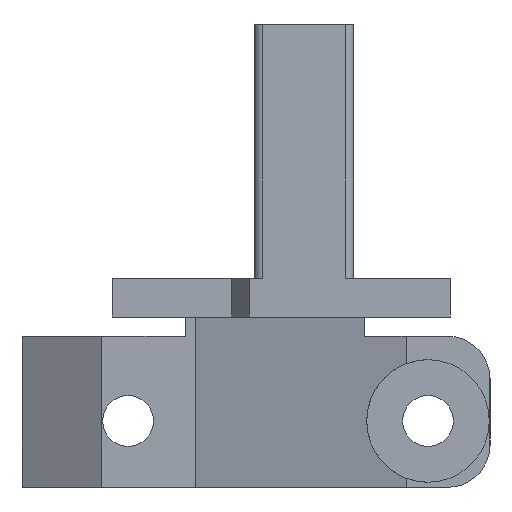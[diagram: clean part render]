
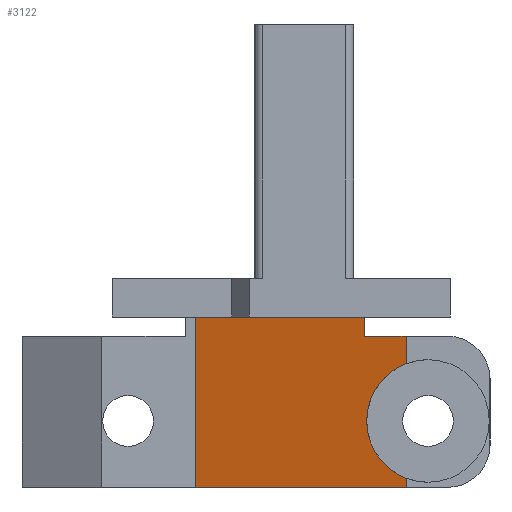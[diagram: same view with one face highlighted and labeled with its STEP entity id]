
A CAD part, left-side view. The second image highlights one B-rep face of the part: STEP entity #3122.
In plain terms, the highlighted planar face has unit normal (-0.962, 0.274, 0).
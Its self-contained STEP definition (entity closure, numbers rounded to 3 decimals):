
#49 = CARTESIAN_POINT ( 'NONE',  ( 174.242, 86.83, 22.6 ) ) ;
#113 = EDGE_CURVE ( 'NONE', #3457, #1231, #2367, .T. ) ;
#122 = CARTESIAN_POINT ( 'NONE',  ( 172.85, 81.938, 17.069 ) ) ;
#288 = CARTESIAN_POINT ( 'NONE',  ( 172.85, 81.938, 20.315 ) ) ;
#291 = PLANE ( 'NONE',  #713 ) ;
#397 = VERTEX_POINT ( 'NONE', #3598 ) ;
#502 = DIRECTION ( 'NONE',  ( -0.274, -0.962, 0. ) ) ;
#568 = LINE ( 'NONE', #288, #993 ) ;
#713 = AXIS2_PLACEMENT_3D ( 'NONE', #973, #4079, #4031 ) ;
#956 =( BOUNDED_CURVE ( )  B_SPLINE_CURVE ( 3, ( #4283, #1866, #2207, #122 ),
 .UNSPECIFIED., .F., .F. ) 
 B_SPLINE_CURVE_WITH_KNOTS ( ( 4, 4 ),
 ( 1.937, 4.346 ),
 .UNSPECIFIED. ) 
 CURVE ( )  GEOMETRIC_REPRESENTATION_ITEM ( )  RATIONAL_B_SPLINE_CURVE ( ( 1., 0.572, 0.572, 1. ) ) 
 REPRESENTATION_ITEM ( '' )  );
#957 = VERTEX_POINT ( 'NONE', #4371 ) ;
#973 = CARTESIAN_POINT ( 'NONE',  ( 179.93, 106.816, 22.6 ) ) ;
#993 = VECTOR ( 'NONE', #1366, 1000. ) ;
#1070 = EDGE_CURVE ( 'NONE', #4485, #397, #568, .T. ) ;
#1176 = CARTESIAN_POINT ( 'NONE',  ( 179.93, 106.816, 22.6 ) ) ;
#1196 = CARTESIAN_POINT ( 'NONE',  ( 172.85, 81.938, 20.315 ) ) ;
#1231 = VERTEX_POINT ( 'NONE', #4191 ) ;
#1243 = LINE ( 'NONE', #2166, #1902 ) ;
#1313 = ORIENTED_EDGE ( 'NONE', *, *, #3000, .F. ) ;
#1366 = DIRECTION ( 'NONE',  ( 0., 0., -1. ) ) ;
#1473 = DIRECTION ( 'NONE',  ( -0.274, -0.962, 0. ) ) ;
#1620 = DIRECTION ( 'NONE',  ( -0.274, -0.962, 0. ) ) ;
#1866 = CARTESIAN_POINT ( 'NONE',  ( 174.945, 89.3, 6.357 ) ) ;
#1868 = CARTESIAN_POINT ( 'NONE',  ( 172.85, 81.938, 3.531 ) ) ;
#1902 = VECTOR ( 'NONE', #4222, 1000. ) ;
#1941 = FACE_OUTER_BOUND ( 'NONE', #2260, .T. ) ;
#1960 = CARTESIAN_POINT ( 'NONE',  ( 179.93, 106.816, 22.6 ) ) ;
#1979 = ORIENTED_EDGE ( 'NONE', *, *, #2804, .T. ) ;
#2069 = VERTEX_POINT ( 'NONE', #1176 ) ;
#2166 = CARTESIAN_POINT ( 'NONE',  ( 172.85, 81.938, 20.315 ) ) ;
#2193 = ORIENTED_EDGE ( 'NONE', *, *, #113, .F. ) ;
#2207 = CARTESIAN_POINT ( 'NONE',  ( 174.945, 89.3, 14.243 ) ) ;
#2260 = EDGE_LOOP ( 'NONE', ( #3371, #2989, #4243, #1313, #2193, #2398, #1979, #4393 ) ) ;
#2367 = LINE ( 'NONE', #49, #2909 ) ;
#2398 = ORIENTED_EDGE ( 'NONE', *, *, #3316, .F. ) ;
#2520 = DIRECTION ( 'NONE',  ( 0., 0., -1. ) ) ;
#2566 = CARTESIAN_POINT ( 'NONE',  ( 179.93, 106.816, 2.45 ) ) ;
#2629 = CARTESIAN_POINT ( 'NONE',  ( 172.774, 81.673, 20.315 ) ) ;
#2781 = CARTESIAN_POINT ( 'NONE',  ( 174.242, 86.83, 22.6 ) ) ;
#2804 = EDGE_CURVE ( 'NONE', #2069, #3137, #3461, .T. ) ;
#2861 = EDGE_CURVE ( 'NONE', #3632, #397, #956, .T. ) ;
#2862 = VECTOR ( 'NONE', #502, 1000. ) ;
#2866 = VECTOR ( 'NONE', #3151, 1000. ) ;
#2876 = EDGE_CURVE ( 'NONE', #3137, #957, #3565, .T. ) ;
#2909 = VECTOR ( 'NONE', #2520, 1000. ) ;
#2989 = ORIENTED_EDGE ( 'NONE', *, *, #2861, .T. ) ;
#3000 = EDGE_CURVE ( 'NONE', #1231, #4485, #3351, .T. ) ;
#3062 = CARTESIAN_POINT ( 'NONE',  ( 179.93, 106.816, 22.6 ) ) ;
#3122 = ADVANCED_FACE ( 'NONE', ( #1941 ), #291, .F. ) ;
#3137 = VERTEX_POINT ( 'NONE', #3749 ) ;
#3151 = DIRECTION ( 'NONE',  ( 0., 0., -1. ) ) ;
#3316 = EDGE_CURVE ( 'NONE', #2069, #3457, #4099, .T. ) ;
#3351 = LINE ( 'NONE', #2629, #2862 ) ;
#3371 = ORIENTED_EDGE ( 'NONE', *, *, #4189, .F. ) ;
#3457 = VERTEX_POINT ( 'NONE', #2781 ) ;
#3461 = LINE ( 'NONE', #3062, #2866 ) ;
#3565 = LINE ( 'NONE', #2566, #4045 ) ;
#3598 = CARTESIAN_POINT ( 'NONE',  ( 172.85, 81.938, 17.069 ) ) ;
#3632 = VERTEX_POINT ( 'NONE', #1868 ) ;
#3749 = CARTESIAN_POINT ( 'NONE',  ( 179.93, 106.816, 2.45 ) ) ;
#4031 = DIRECTION ( 'NONE',  ( 0.274, 0.962, 0. ) ) ;
#4045 = VECTOR ( 'NONE', #1473, 1000. ) ;
#4079 = DIRECTION ( 'NONE',  ( 0.962, -0.274, 0. ) ) ;
#4099 = LINE ( 'NONE', #1960, #4376 ) ;
#4189 = EDGE_CURVE ( 'NONE', #3632, #957, #1243, .T. ) ;
#4191 = CARTESIAN_POINT ( 'NONE',  ( 174.242, 86.83, 20.315 ) ) ;
#4222 = DIRECTION ( 'NONE',  ( 0., 0., -1. ) ) ;
#4243 = ORIENTED_EDGE ( 'NONE', *, *, #1070, .F. ) ;
#4283 = CARTESIAN_POINT ( 'NONE',  ( 172.85, 81.938, 3.531 ) ) ;
#4371 = CARTESIAN_POINT ( 'NONE',  ( 172.85, 81.938, 2.45 ) ) ;
#4376 = VECTOR ( 'NONE', #1620, 1000. ) ;
#4393 = ORIENTED_EDGE ( 'NONE', *, *, #2876, .T. ) ;
#4485 = VERTEX_POINT ( 'NONE', #1196 ) ;
